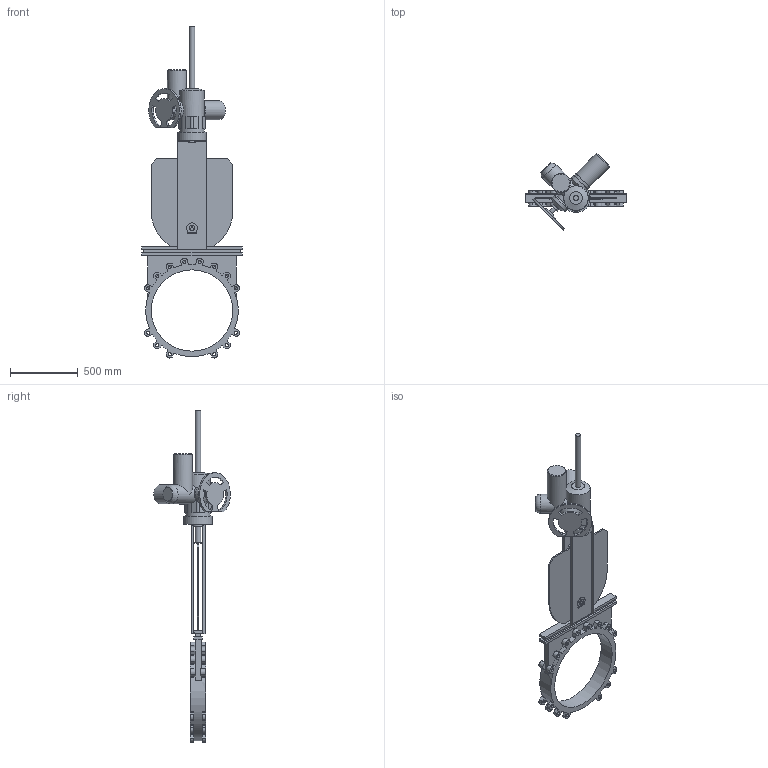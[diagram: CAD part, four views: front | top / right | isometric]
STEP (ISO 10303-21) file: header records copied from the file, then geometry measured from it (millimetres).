
FILE_DESCRIPTION(('STEP AP203'), '1');
FILE_NAME('K51GVA_DN600+MT903.A 45', '', ('UNSPECIFIED'), ('UNSPECIFIED'), 'ASCON STEP Converter 1.6', 'ASCON Math Kernel', '');
FILE_SCHEMA(('CONFIG_CONTROL_DESIGN'));
Length unit declared in the file: millimetre
Bounding box: 740 x 565.84 x 2450.42 mm (x, y, z)
Volume: 46020668.8 mm3; surface area: 3678103.5 mm2
Topology: 1 solids, 2 shells, 408 faces, 1120 edges, 736 vertices
Faces by surface type: plane 198, cylinder 179, cone 30, torus 1
Full cylindrical faces by diameter (mm): 14 x4, 17.294 x4, 22 x4, 23.752 x28, 32 x1, 40 x2, 60 x1, 80 x1, 100 x1, 130 x1, 140 x4, 147 x1, 151 x1, 180 x1, 210 x1, 600 x1
Entity records: 16697 total; most frequent: CARTESIAN_POINT 3100, DIRECTION 2227, ORIENTED_EDGE 2028, EDGE_CURVE 1014, AXIS2_PLACEMENT_3D 834, VERTEX_POINT 716, LINE 559, VECTOR 559
